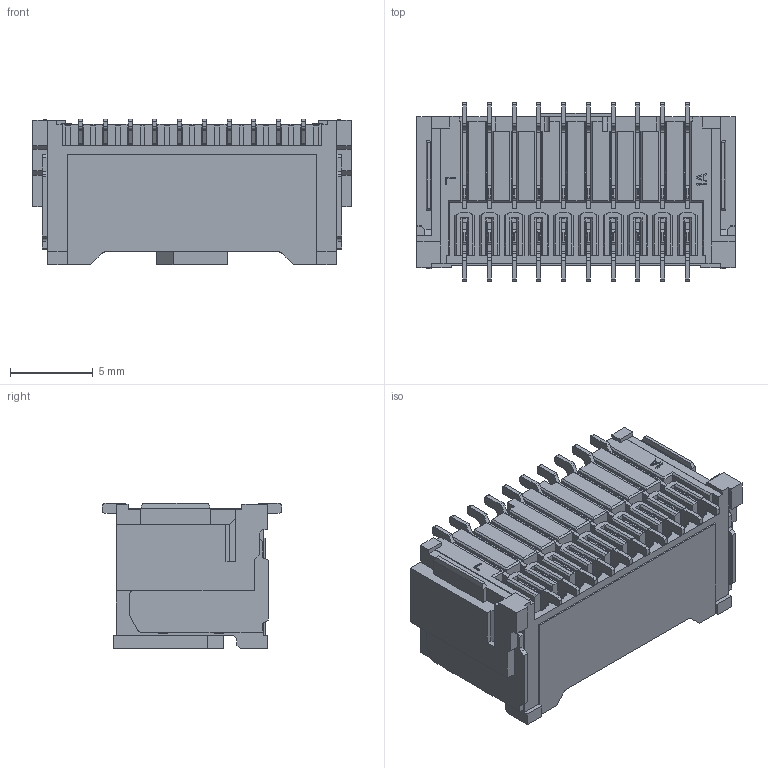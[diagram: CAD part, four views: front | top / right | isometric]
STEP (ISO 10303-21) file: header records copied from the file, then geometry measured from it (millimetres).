
FILE_DESCRIPTION (( 'STEP AP203' ), '1' );
FILE_NAME ('GT-A1515WVS-220SMT01.STEP', '2024-09-25T10:46:29', ( '' ), ( '' ), 'SwSTEP 2.0', 'SolidWorks 2020', '' );
FILE_SCHEMA (( 'CONFIG_CONTROL_DESIGN' ));
Length unit declared in the file: millimetre
Products named in the file (1): GT-A1515WVS-220SMT01
Bounding box: 19.3 x 10.85 x 8.8 mm (x, y, z)
Volume: 787.7 mm3; surface area: 2057.5 mm2
Topology: 11 solids, 11 shells, 2063 faces, 5988 edges, 3973 vertices
Faces by surface type: plane 1489, cylinder 503, bspline 71
Entity records: 74193 total; most frequent: CARTESIAN_POINT 24758, ORIENTED_EDGE 11976, DIRECTION 7682, EDGE_CURVE 5988, VERTEX_POINT 3973, LINE 3036, VECTOR 3036, B_SPLINE_CURVE_WITH_KNOTS 2622
